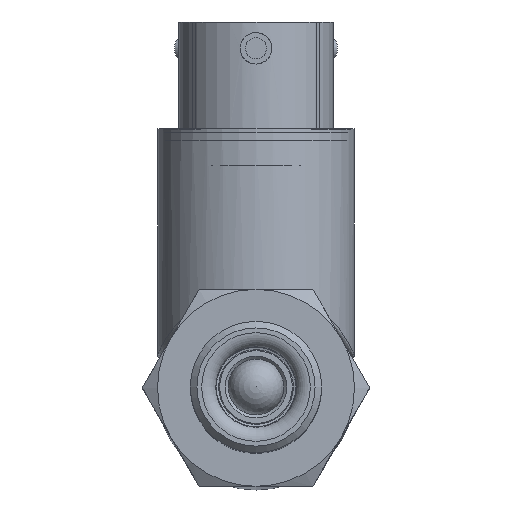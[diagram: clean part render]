
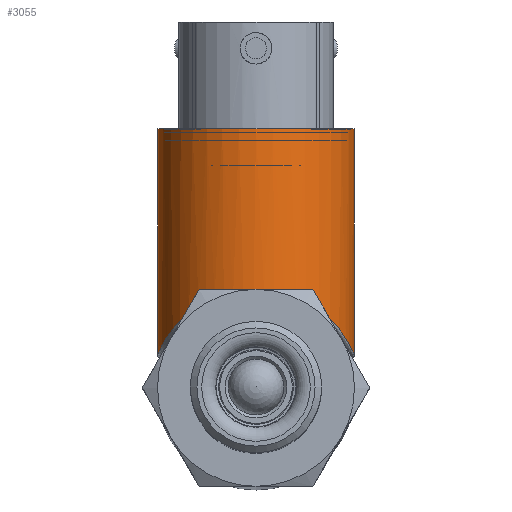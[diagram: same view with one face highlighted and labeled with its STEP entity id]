
A CAD part, top view. The second image highlights one B-rep face of the part: STEP entity #3055.
In plain terms, the highlighted cylindrical face has radius 9.525 mm (diameter 19.05 mm), a full revolution.
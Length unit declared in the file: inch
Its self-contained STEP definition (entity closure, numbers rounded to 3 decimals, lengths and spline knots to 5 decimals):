
#82=B_SPLINE_CURVE_WITH_KNOTS('',3,(#5353,#5354,#5355,#5356,#5357,#5358,
#5359,#5360,#5361,#5362,#5363,#5364,#5365,#5366,#5367,#5368,#5369,#5370,
#5371,#5372,#5373,#5374,#5375,#5376,#5377,#5378,#5379,#5380,#5381,#5382),
 .UNSPECIFIED.,.F.,.F.,(4,1,1,1,1,1,1,1,1,1,1,1,1,1,1,1,1,1,1,1,1,1,1,1,
1,1,1,4),(-9.63704,-9.40762,-9.17816,-8.71925,
-8.41331,-8.26035,-8.10738,-8.03089,
-7.95441,-7.80144,-7.4955,-7.18956,
-6.88362,-6.57768,-6.27174,-5.9658,
-5.65987,-5.35393,-5.04799,-4.93326,
-4.81853,-4.58908,-4.47435,-4.35963,
-4.13017,-3.67126,-3.44181,-3.21236),
 .UNSPECIFIED.);
#326=FACE_OUTER_BOUND('',#541,.T.);
#541=EDGE_LOOP('',(#2047,#2048,#2049,#2050));
#788=LINE('',#5417,#928);
#928=VECTOR('',#3921,0.375);
#1074=CIRCLE('',#3442,0.375);
#1297=VERTEX_POINT('',#5352);
#1299=VERTEX_POINT('',#5416);
#1582=EDGE_CURVE('',#1297,#1297,#82,.T.);
#1585=EDGE_CURVE('',#1299,#1297,#788,.T.);
#1586=EDGE_CURVE('',#1299,#1299,#1074,.T.);
#2047=ORIENTED_EDGE('',*,*,#1582,.F.);
#2048=ORIENTED_EDGE('',*,*,#1585,.F.);
#2049=ORIENTED_EDGE('',*,*,#1586,.F.);
#2050=ORIENTED_EDGE('',*,*,#1585,.T.);
#2765=CYLINDRICAL_SURFACE('',#3441,0.375);
#3055=ADVANCED_FACE('',(#326),#2765,.T.);
#3441=AXIS2_PLACEMENT_3D('',#5415,#3919,#3920);
#3442=AXIS2_PLACEMENT_3D('',#5418,#3922,#3923);
#3919=DIRECTION('center_axis',(0.,1.,0.));
#3920=DIRECTION('ref_axis',(0.,0.,
1.));
#3921=DIRECTION('',(0.,-1.,0.));
#3922=DIRECTION('center_axis',(0.,1.,0.));
#3923=DIRECTION('ref_axis',(0.,0.,
1.));
#5352=CARTESIAN_POINT('',(0.,0.3875,-3.25));
#5353=CARTESIAN_POINT('Ctrl Pts',(0.,0.3875,
-3.25));
#5354=CARTESIAN_POINT('Ctrl Pts',(0.03115,0.3875,-3.25));
#5355=CARTESIAN_POINT('Ctrl Pts',(0.09335,0.38035,
-3.24211));
#5356=CARTESIAN_POINT('Ctrl Pts',(0.20458,0.34114,-3.19847));
#5357=CARTESIAN_POINT('Ctrl Pts',(0.29317,0.27244,-3.12028));
#5358=CARTESIAN_POINT('Ctrl Pts',(0.34371,0.20218,-3.03173));
#5359=CARTESIAN_POINT('Ctrl Pts',(0.36561,0.15993,-2.96432));
#5360=CARTESIAN_POINT('Ctrl Pts',(0.37367,0.14039,-2.91655));
#5361=CARTESIAN_POINT('Ctrl Pts',(0.37544,0.13578,-2.875));
#5362=CARTESIAN_POINT('Ctrl Pts',(0.37368,0.14035,-2.8334));
#5363=CARTESIAN_POINT('Ctrl Pts',(0.36229,0.16811,-2.76674));
#5364=CARTESIAN_POINT('Ctrl Pts',(0.32975,0.22594,-2.68719));
#5365=CARTESIAN_POINT('Ctrl Pts',(0.26716,0.29417,-2.60483));
#5366=CARTESIAN_POINT('Ctrl Pts',(0.17872,0.35263,-2.53869));
#5367=CARTESIAN_POINT('Ctrl Pts',(0.06402,0.38898,
-2.49834));
#5368=CARTESIAN_POINT('Ctrl Pts',(-0.06404,0.38892,
-2.49841));
#5369=CARTESIAN_POINT('Ctrl Pts',(-0.17868,0.35262,
-2.53868));
#5370=CARTESIAN_POINT('Ctrl Pts',(-0.26715,0.29419,-2.60483));
#5371=CARTESIAN_POINT('Ctrl Pts',(-0.32978,0.22581,-2.68713));
#5372=CARTESIAN_POINT('Ctrl Pts',(-0.36065,0.17106,
-2.76292));
#5373=CARTESIAN_POINT('Ctrl Pts',(-0.373,0.14219,
-2.82825));
#5374=CARTESIAN_POINT('Ctrl Pts',(-0.377,0.13166,
-2.89086));
#5375=CARTESIAN_POINT('Ctrl Pts',(-0.36897,0.15288,
-2.95153));
#5376=CARTESIAN_POINT('Ctrl Pts',(-0.35344,0.18352,
-3.00231));
#5377=CARTESIAN_POINT('Ctrl Pts',(-0.33327,0.21694,
-3.05034));
#5378=CARTESIAN_POINT('Ctrl Pts',(-0.28642,0.27757,
-3.12628));
#5379=CARTESIAN_POINT('Ctrl Pts',(-0.20458,0.34118,
-3.19849));
#5380=CARTESIAN_POINT('Ctrl Pts',(-0.09337,0.38032,
-3.2421));
#5381=CARTESIAN_POINT('Ctrl Pts',(-0.03116,0.3875,
-3.25));
#5382=CARTESIAN_POINT('Ctrl Pts',(-0.00001,0.3875,
-3.25));
#5415=CARTESIAN_POINT('Origin',(0.,0.5,
-2.875));
#5416=CARTESIAN_POINT('',(0.,1.,-3.25));
#5417=CARTESIAN_POINT('',(0.,0.5,-3.25));
#5418=CARTESIAN_POINT('Origin',(0.,1.,-2.875));
